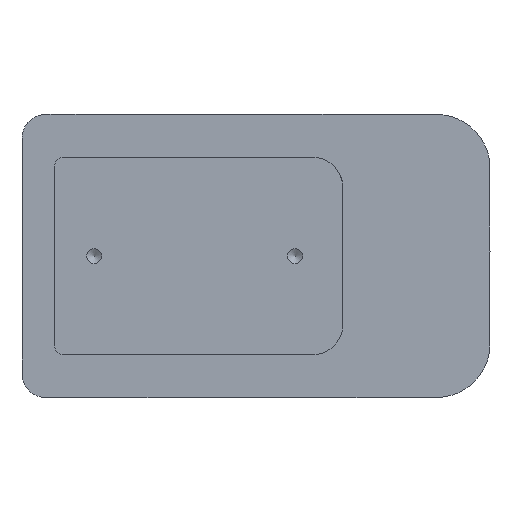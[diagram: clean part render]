
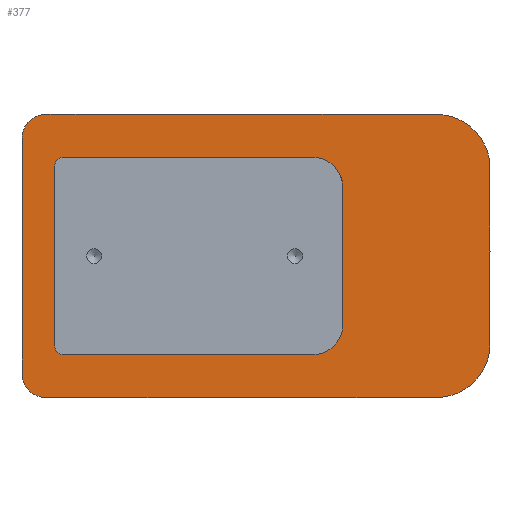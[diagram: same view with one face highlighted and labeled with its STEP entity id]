
A CAD part, top view. The second image highlights one B-rep face of the part: STEP entity #377.
In plain terms, the highlighted planar face has unit normal (0, 0, 1).
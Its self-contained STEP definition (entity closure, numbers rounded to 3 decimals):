
#34=B_SPLINE_CURVE_WITH_KNOTS('',3,(#5209,#5210,#5211,#5212,#5213,#5214,
#5215,#5216,#5217,#5218,#5219,#5220,#5221,#5222,#5223,#5224,#5225,#5226,
#5227,#5228,#5229,#5230,#5231,#5232,#5233,#5234,#5235,#5236,#5237,#5238,
#5239,#5240,#5241,#5242,#5243),.UNSPECIFIED.,.T.,.F.,(4,1,1,2,1,1,1,2,1,
1,2,1,1,1,2,2,1,1,1,2,1,2,1,1,1,4),(0.,0.082,0.123,
0.164,0.168,0.178,0.185,
0.192,0.329,0.398,0.466,
0.477,0.488,0.499,0.51,
0.654,0.665,0.676,0.687,
0.698,0.835,0.972,0.979,
0.986,0.993,1.),.UNSPECIFIED.);
#44=FACE_BOUND('',#104,.T.);
#51=PLANE('',#418);
#79=FACE_OUTER_BOUND('',#103,.T.);
#103=EDGE_LOOP('',(#345));
#104=EDGE_LOOP('',(#346,#347,#348,#349,#350,#351,#352,#353));
#109=LINE('',#518,#130);
#114=LINE('',#532,#135);
#118=LINE('',#544,#139);
#122=LINE('',#556,#143);
#130=VECTOR('',#443,10.);
#135=VECTOR('',#456,10.);
#139=VECTOR('',#468,10.);
#143=VECTOR('',#480,10.);
#151=CIRCLE('',#402,1.5);
#153=CIRCLE('',#406,5.);
#155=CIRCLE('',#410,5.);
#157=CIRCLE('',#414,1.5);
#165=VERTEX_POINT('',#516);
#166=VERTEX_POINT('',#517);
#169=VERTEX_POINT('',#525);
#171=VERTEX_POINT('',#531);
#173=VERTEX_POINT('',#537);
#175=VERTEX_POINT('',#543);
#177=VERTEX_POINT('',#549);
#179=VERTEX_POINT('',#555);
#194=VERTEX_POINT('',#5207);
#203=EDGE_CURVE('',#165,#166,#109,.T.);
#207=EDGE_CURVE('',#169,#165,#151,.T.);
#210=EDGE_CURVE('',#171,#169,#114,.T.);
#213=EDGE_CURVE('',#173,#171,#153,.T.);
#216=EDGE_CURVE('',#175,#173,#118,.T.);
#219=EDGE_CURVE('',#177,#175,#155,.T.);
#222=EDGE_CURVE('',#179,#177,#122,.T.);
#225=EDGE_CURVE('',#166,#179,#157,.T.);
#247=EDGE_CURVE('',#194,#194,#34,.T.);
#345=ORIENTED_EDGE('',*,*,#247,.T.);
#346=ORIENTED_EDGE('',*,*,#203,.T.);
#347=ORIENTED_EDGE('',*,*,#225,.T.);
#348=ORIENTED_EDGE('',*,*,#222,.T.);
#349=ORIENTED_EDGE('',*,*,#219,.T.);
#350=ORIENTED_EDGE('',*,*,#216,.T.);
#351=ORIENTED_EDGE('',*,*,#213,.T.);
#352=ORIENTED_EDGE('',*,*,#210,.T.);
#353=ORIENTED_EDGE('',*,*,#207,.T.);
#377=ADVANCED_FACE('',(#79,#44),#51,.T.);
#402=AXIS2_PLACEMENT_3D('',#526,#449,#450);
#406=AXIS2_PLACEMENT_3D('',#538,#461,#462);
#410=AXIS2_PLACEMENT_3D('',#550,#473,#474);
#414=AXIS2_PLACEMENT_3D('',#561,#485,#486);
#418=AXIS2_PLACEMENT_3D('',#5245,#494,#495);
#443=DIRECTION('',(0.,1.,0.));
#449=DIRECTION('center_axis',(0.,0.,-1.));
#450=DIRECTION('ref_axis',(-1.,0.,0.));
#456=DIRECTION('',(-1.,0.,0.));
#461=DIRECTION('center_axis',(0.,0.,-1.));
#462=DIRECTION('ref_axis',(0.,-1.,0.));
#468=DIRECTION('',(0.,-1.,0.));
#473=DIRECTION('center_axis',(0.,0.,-1.));
#474=DIRECTION('ref_axis',(1.,0.,0.));
#480=DIRECTION('',(1.,0.,0.));
#485=DIRECTION('center_axis',(0.,0.,-1.));
#486=DIRECTION('ref_axis',(0.,1.,0.));
#494=DIRECTION('center_axis',(0.,0.,1.));
#495=DIRECTION('ref_axis',(1.,0.,0.));
#516=CARTESIAN_POINT('',(-11.,-2.55,0.));
#517=CARTESIAN_POINT('',(-11.,27.55,0.));
#518=CARTESIAN_POINT('',(-11.,5.941,0.));
#525=CARTESIAN_POINT('',(-9.5,-4.05,0.));
#526=CARTESIAN_POINT('Origin',(-9.5,-2.55,0.));
#531=CARTESIAN_POINT('',(32.3,-4.05,0.));
#532=CARTESIAN_POINT('',(25.163,-4.05,0.));
#537=CARTESIAN_POINT('',(37.3,0.95,0.));
#538=CARTESIAN_POINT('Origin',(32.3,0.95,0.));
#543=CARTESIAN_POINT('',(37.3,24.05,0.));
#544=CARTESIAN_POINT('',(37.3,19.241,0.));
#549=CARTESIAN_POINT('',(32.3,29.05,0.));
#550=CARTESIAN_POINT('Origin',(32.3,24.05,0.));
#555=CARTESIAN_POINT('',(-9.5,29.05,0.));
#556=CARTESIAN_POINT('',(4.263,29.05,0.));
#561=CARTESIAN_POINT('Origin',(-9.5,27.55,0.));
#5207=CARTESIAN_POINT('',(-16.5,32.25,0.));
#5209=CARTESIAN_POINT('Ctrl Pts',(-16.5,32.25,0.));
#5210=CARTESIAN_POINT('Ctrl Pts',(-16.5,26.065,0.));
#5211=CARTESIAN_POINT('Ctrl Pts',(-16.5,15.891,0.));
#5212=CARTESIAN_POINT('Ctrl Pts',(-16.5,2.327,0.));
#5213=CARTESIAN_POINT('Ctrl Pts',(-16.501,-4.158,0.));
#5214=CARTESIAN_POINT('Ctrl Pts',(-16.5,-7.512,0.));
#5215=CARTESIAN_POINT('Ctrl Pts',(-16.4,-8.56,0.));
#5216=CARTESIAN_POINT('Ctrl Pts',(-15.626,-10.005,0.));
#5217=CARTESIAN_POINT('Ctrl Pts',(-14.069,-11.041,0.));
#5218=CARTESIAN_POINT('Ctrl Pts',(-13.024,-11.25,0.));
#5219=CARTESIAN_POINT('Ctrl Pts',(-2.158,-11.25,0.));
#5220=CARTESIAN_POINT('Ctrl Pts',(14.219,-11.25,0.));
#5221=CARTESIAN_POINT('Ctrl Pts',(36.478,-11.25,0.));
#5222=CARTESIAN_POINT('Ctrl Pts',(47.549,-11.248,0.));
#5223=CARTESIAN_POINT('Ctrl Pts',(53.876,-11.249,0.));
#5224=CARTESIAN_POINT('Ctrl Pts',(56.17,-10.975,0.));
#5225=CARTESIAN_POINT('Ctrl Pts',(59.748,-8.708,0.));
#5226=CARTESIAN_POINT('Ctrl Pts',(61.801,-5.116,0.));
#5227=CARTESIAN_POINT('Ctrl Pts',(61.998,-3.005,0.));
#5228=CARTESIAN_POINT('Ctrl Pts',(62.,7.572,0.));
#5229=CARTESIAN_POINT('Ctrl Pts',(62.005,17.428,0.));
#5230=CARTESIAN_POINT('Ctrl Pts',(62.001,28.006,0.));
#5231=CARTESIAN_POINT('Ctrl Pts',(61.808,30.116,0.));
#5232=CARTESIAN_POINT('Ctrl Pts',(59.745,33.709,0.));
#5233=CARTESIAN_POINT('Ctrl Pts',(56.168,35.974,0.));
#5234=CARTESIAN_POINT('Ctrl Pts',(53.872,36.246,0.));
#5235=CARTESIAN_POINT('Ctrl Pts',(42.093,36.249,0.));
#5236=CARTESIAN_POINT('Ctrl Pts',(19.668,36.25,0.));
#5237=CARTESIAN_POINT('Ctrl Pts',(-2.156,36.25,0.));
#5238=CARTESIAN_POINT('Ctrl Pts',(-13.024,36.25,0.));
#5239=CARTESIAN_POINT('Ctrl Pts',(-14.07,36.042,0.));
#5240=CARTESIAN_POINT('Ctrl Pts',(-15.402,35.152,0.));
#5241=CARTESIAN_POINT('Ctrl Pts',(-16.292,33.821,0.));
#5242=CARTESIAN_POINT('Ctrl Pts',(-16.5,32.774,0.));
#5243=CARTESIAN_POINT('Ctrl Pts',(-16.5,32.25,0.));
#5245=CARTESIAN_POINT('Origin',(18.025,14.433,0.));
